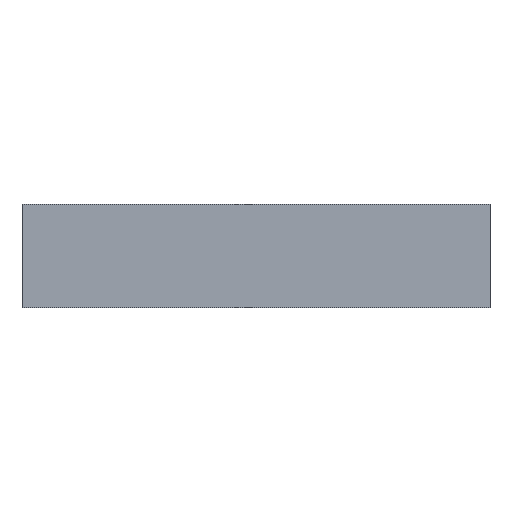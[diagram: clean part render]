
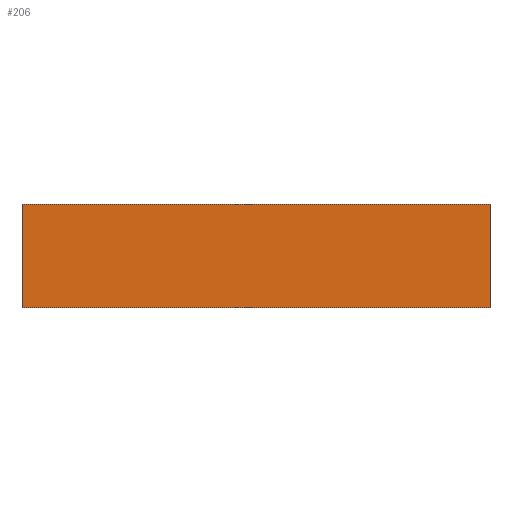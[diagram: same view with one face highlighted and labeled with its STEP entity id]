
A CAD part, top view. The second image highlights one B-rep face of the part: STEP entity #206.
In plain terms, the highlighted planar face has unit normal (0, 0, 1).
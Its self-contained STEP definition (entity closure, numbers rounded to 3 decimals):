
#44 = PLANE('',#45);
#45 = AXIS2_PLACEMENT_3D('',#46,#47,#48);
#46 = CARTESIAN_POINT('',(-830.,185.075,5.));
#47 = DIRECTION('',(-0.707,-0.,-0.707));
#48 = DIRECTION('',(0.707,0.,-0.707));
#71 = PLANE('',#72);
#72 = AXIS2_PLACEMENT_3D('',#73,#74,#75);
#73 = CARTESIAN_POINT('',(0.,370.15,5.03));
#74 = DIRECTION('',(0.,1.,0.));
#75 = DIRECTION('',(0.,-0.,1.));
#98 = PLANE('',#99);
#99 = AXIS2_PLACEMENT_3D('',#100,#101,#102);
#100 = CARTESIAN_POINT('',(830.,185.075,5.));
#101 = DIRECTION('',(0.707,0.,-0.707));
#102 = DIRECTION('',(0.707,0.,0.707));
#123 = PLANE('',#124);
#124 = AXIS2_PLACEMENT_3D('',#125,#126,#127);
#125 = CARTESIAN_POINT('',(0.,0.,5.03));
#126 = DIRECTION('',(-0.,-1.,-0.));
#127 = DIRECTION('',(0.,0.,-1.));
#139 = VERTEX_POINT('',#140);
#140 = CARTESIAN_POINT('',(835.,0.,10.));
#160 = EDGE_CURVE('',#161,#139,#163,.T.);
#161 = VERTEX_POINT('',#162);
#162 = CARTESIAN_POINT('',(-835.,0.,10.));
#163 = SURFACE_CURVE('',#164,(#168,#174),.PCURVE_S1.);
#164 = LINE('',#165,#166);
#165 = CARTESIAN_POINT('',(-835.,0.,10.));
#166 = VECTOR('',#167,1.);
#167 = DIRECTION('',(1.,0.,0.));
#168 = PCURVE('',#123,#169);
#169 = DEFINITIONAL_REPRESENTATION('',(#170),#173);
#170 = B_SPLINE_CURVE_WITH_KNOTS('',1,(#171,#172),.UNSPECIFIED.,.F.,.F.,
  (2,2),(0.,1670.),.PIECEWISE_BEZIER_KNOTS.);
#171 = CARTESIAN_POINT('',(-4.97,-835.));
#172 = CARTESIAN_POINT('',(-4.97,835.));
#173 = ( GEOMETRIC_REPRESENTATION_CONTEXT(2) 
PARAMETRIC_REPRESENTATION_CONTEXT() REPRESENTATION_CONTEXT('2D SPACE',''
  ) );
#174 = PCURVE('',#175,#180);
#175 = PLANE('',#176);
#176 = AXIS2_PLACEMENT_3D('',#177,#178,#179);
#177 = CARTESIAN_POINT('',(0.,185.075,10.));
#178 = DIRECTION('',(0.,0.,1.));
#179 = DIRECTION('',(1.,0.,-0.));
#180 = DEFINITIONAL_REPRESENTATION('',(#181),#185);
#181 = LINE('',#182,#183);
#182 = CARTESIAN_POINT('',(-835.,-185.075));
#183 = VECTOR('',#184,1.);
#184 = DIRECTION('',(1.,0.));
#185 = ( GEOMETRIC_REPRESENTATION_CONTEXT(2) 
PARAMETRIC_REPRESENTATION_CONTEXT() REPRESENTATION_CONTEXT('2D SPACE',''
  ) );
#206 = ADVANCED_FACE('',(#207),#175,.T.);
#207 = FACE_BOUND('',#208,.T.);
#208 = EDGE_LOOP('',(#209,#210,#232,#254));
#209 = ORIENTED_EDGE('',*,*,#160,.T.);
#210 = ORIENTED_EDGE('',*,*,#211,.T.);
#211 = EDGE_CURVE('',#139,#212,#214,.T.);
#212 = VERTEX_POINT('',#213);
#213 = CARTESIAN_POINT('',(835.,370.15,10.));
#214 = SURFACE_CURVE('',#215,(#219,#226),.PCURVE_S1.);
#215 = LINE('',#216,#217);
#216 = CARTESIAN_POINT('',(835.,0.,10.));
#217 = VECTOR('',#218,1.);
#218 = DIRECTION('',(0.,1.,0.));
#219 = PCURVE('',#175,#220);
#220 = DEFINITIONAL_REPRESENTATION('',(#221),#225);
#221 = LINE('',#222,#223);
#222 = CARTESIAN_POINT('',(835.,-185.075));
#223 = VECTOR('',#224,1.);
#224 = DIRECTION('',(0.,1.));
#225 = ( GEOMETRIC_REPRESENTATION_CONTEXT(2) 
PARAMETRIC_REPRESENTATION_CONTEXT() REPRESENTATION_CONTEXT('2D SPACE',''
  ) );
#226 = PCURVE('',#98,#227);
#227 = DEFINITIONAL_REPRESENTATION('',(#228),#231);
#228 = B_SPLINE_CURVE_WITH_KNOTS('',1,(#229,#230),.UNSPECIFIED.,.F.,.F.,
  (2,2),(0.,370.15),.PIECEWISE_BEZIER_KNOTS.);
#229 = CARTESIAN_POINT('',(7.071,185.075));
#230 = CARTESIAN_POINT('',(7.071,-185.075));
#231 = ( GEOMETRIC_REPRESENTATION_CONTEXT(2) 
PARAMETRIC_REPRESENTATION_CONTEXT() REPRESENTATION_CONTEXT('2D SPACE',''
  ) );
#232 = ORIENTED_EDGE('',*,*,#233,.T.);
#233 = EDGE_CURVE('',#212,#234,#236,.T.);
#234 = VERTEX_POINT('',#235);
#235 = CARTESIAN_POINT('',(-835.,370.15,10.));
#236 = SURFACE_CURVE('',#237,(#241,#248),.PCURVE_S1.);
#237 = LINE('',#238,#239);
#238 = CARTESIAN_POINT('',(835.,370.15,10.));
#239 = VECTOR('',#240,1.);
#240 = DIRECTION('',(-1.,0.,0.));
#241 = PCURVE('',#175,#242);
#242 = DEFINITIONAL_REPRESENTATION('',(#243),#247);
#243 = LINE('',#244,#245);
#244 = CARTESIAN_POINT('',(835.,185.075));
#245 = VECTOR('',#246,1.);
#246 = DIRECTION('',(-1.,0.));
#247 = ( GEOMETRIC_REPRESENTATION_CONTEXT(2) 
PARAMETRIC_REPRESENTATION_CONTEXT() REPRESENTATION_CONTEXT('2D SPACE',''
  ) );
#248 = PCURVE('',#71,#249);
#249 = DEFINITIONAL_REPRESENTATION('',(#250),#253);
#250 = B_SPLINE_CURVE_WITH_KNOTS('',1,(#251,#252),.UNSPECIFIED.,.F.,.F.,
  (2,2),(0.,1670.),.PIECEWISE_BEZIER_KNOTS.);
#251 = CARTESIAN_POINT('',(4.97,835.));
#252 = CARTESIAN_POINT('',(4.97,-835.));
#253 = ( GEOMETRIC_REPRESENTATION_CONTEXT(2) 
PARAMETRIC_REPRESENTATION_CONTEXT() REPRESENTATION_CONTEXT('2D SPACE',''
  ) );
#254 = ORIENTED_EDGE('',*,*,#255,.T.);
#255 = EDGE_CURVE('',#234,#161,#256,.T.);
#256 = SURFACE_CURVE('',#257,(#261,#268),.PCURVE_S1.);
#257 = LINE('',#258,#259);
#258 = CARTESIAN_POINT('',(-835.,370.15,10.));
#259 = VECTOR('',#260,1.);
#260 = DIRECTION('',(0.,-1.,0.));
#261 = PCURVE('',#175,#262);
#262 = DEFINITIONAL_REPRESENTATION('',(#263),#267);
#263 = LINE('',#264,#265);
#264 = CARTESIAN_POINT('',(-835.,185.075));
#265 = VECTOR('',#266,1.);
#266 = DIRECTION('',(0.,-1.));
#267 = ( GEOMETRIC_REPRESENTATION_CONTEXT(2) 
PARAMETRIC_REPRESENTATION_CONTEXT() REPRESENTATION_CONTEXT('2D SPACE',''
  ) );
#268 = PCURVE('',#44,#269);
#269 = DEFINITIONAL_REPRESENTATION('',(#270),#273);
#270 = B_SPLINE_CURVE_WITH_KNOTS('',1,(#271,#272),.UNSPECIFIED.,.F.,.F.,
  (2,2),(0.,370.15),.PIECEWISE_BEZIER_KNOTS.);
#271 = CARTESIAN_POINT('',(-7.071,-185.075));
#272 = CARTESIAN_POINT('',(-7.071,185.075));
#273 = ( GEOMETRIC_REPRESENTATION_CONTEXT(2) 
PARAMETRIC_REPRESENTATION_CONTEXT() REPRESENTATION_CONTEXT('2D SPACE',''
  ) );
